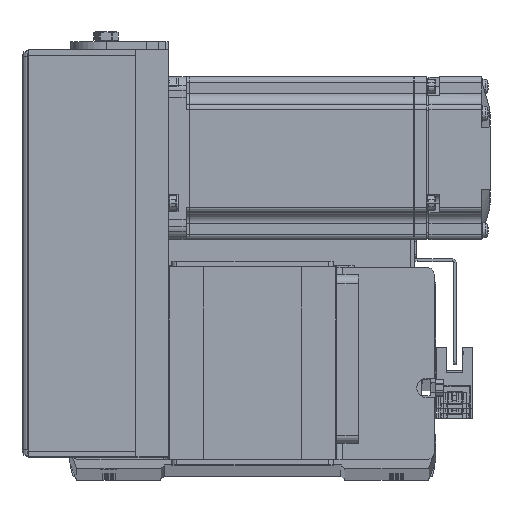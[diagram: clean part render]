
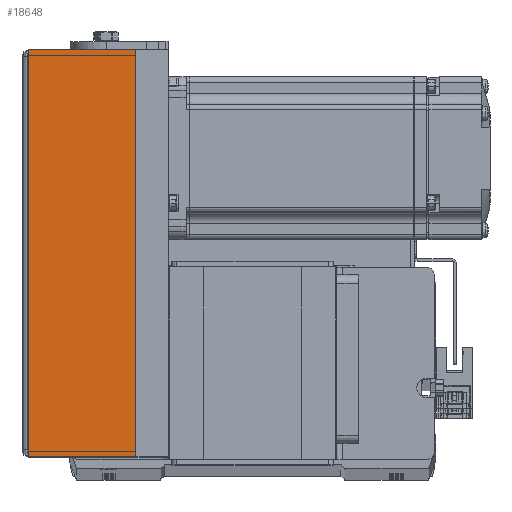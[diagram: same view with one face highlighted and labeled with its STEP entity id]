
A CAD part, top view. The second image highlights one B-rep face of the part: STEP entity #18648.
In plain terms, the highlighted planar face has unit normal (0, 0, 1) as drawn and (0, 1, 0) by its records, which use the part's own axes.
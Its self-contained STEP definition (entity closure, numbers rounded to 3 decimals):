
#1834 = CARTESIAN_POINT ( 'NONE',  ( 0., 36., 12. ) ) ;
#1863 = VECTOR ( 'NONE', #20578, 1000. ) ;
#6506 = VERTEX_POINT ( 'NONE', #20595 ) ;
#7112 = EDGE_LOOP ( 'NONE', ( #11468, #21958, #37117, #28565 ) ) ;
#10872 = CARTESIAN_POINT ( 'NONE',  ( 75., 36., 12. ) ) ;
#11448 = LINE ( 'NONE', #26700, #37652 ) ;
#11468 = ORIENTED_EDGE ( 'NONE', *, *, #35382, .F. ) ;
#11929 = VECTOR ( 'NONE', #26142, 1000. ) ;
#14146 = LINE ( 'NONE', #25991, #1863 ) ;
#18291 = DIRECTION ( 'NONE',  ( 0., 0., 1. ) ) ;
#18648 = ADVANCED_FACE ( 'NONE', ( #30532 ), #22420, .F. ) ;
#19932 = EDGE_CURVE ( 'NONE', #23341, #30981, #11448, .T. ) ;
#20578 = DIRECTION ( 'NONE',  ( 0., 0., -1. ) ) ;
#20595 = CARTESIAN_POINT ( 'NONE',  ( -75., 36., 12. ) ) ;
#20863 = CARTESIAN_POINT ( 'NONE',  ( 75., 36., 51.5 ) ) ;
#21958 = ORIENTED_EDGE ( 'NONE', *, *, #19932, .T. ) ;
#22098 = AXIS2_PLACEMENT_3D ( 'NONE', #31337, #30940, #18291 ) ;
#22420 = PLANE ( 'NONE',  #22098 ) ;
#23099 = DIRECTION ( 'NONE',  ( 0., 0., -1. ) ) ;
#23341 = VERTEX_POINT ( 'NONE', #20863 ) ;
#25991 = CARTESIAN_POINT ( 'NONE',  ( -75., 36., 51.5 ) ) ;
#26142 = DIRECTION ( 'NONE',  ( -1., 0., 0. ) ) ;
#26700 = CARTESIAN_POINT ( 'NONE',  ( 75., 36., 51.5 ) ) ;
#27150 = LINE ( 'NONE', #27559, #31686 ) ;
#27559 = CARTESIAN_POINT ( 'NONE',  ( -75., 36., 51.5 ) ) ;
#28565 = ORIENTED_EDGE ( 'NONE', *, *, #30670, .F. ) ;
#28742 = VERTEX_POINT ( 'NONE', #33107 ) ;
#29358 = LINE ( 'NONE', #1834, #11929 ) ;
#30532 = FACE_OUTER_BOUND ( 'NONE', #7112, .T. ) ;
#30670 = EDGE_CURVE ( 'NONE', #28742, #6506, #14146, .T. ) ;
#30940 = DIRECTION ( 'NONE',  ( 0., -1., 0. ) ) ;
#30981 = VERTEX_POINT ( 'NONE', #10872 ) ;
#31337 = CARTESIAN_POINT ( 'NONE',  ( 0., 36., 52. ) ) ;
#31686 = VECTOR ( 'NONE', #37013, 1000. ) ;
#33107 = CARTESIAN_POINT ( 'NONE',  ( -75., 36., 51.5 ) ) ;
#35382 = EDGE_CURVE ( 'NONE', #23341, #28742, #27150, .T. ) ;
#37013 = DIRECTION ( 'NONE',  ( -1., 0., 0. ) ) ;
#37117 = ORIENTED_EDGE ( 'NONE', *, *, #38347, .T. ) ;
#37652 = VECTOR ( 'NONE', #23099, 1000. ) ;
#38347 = EDGE_CURVE ( 'NONE', #30981, #6506, #29358, .T. ) ;
